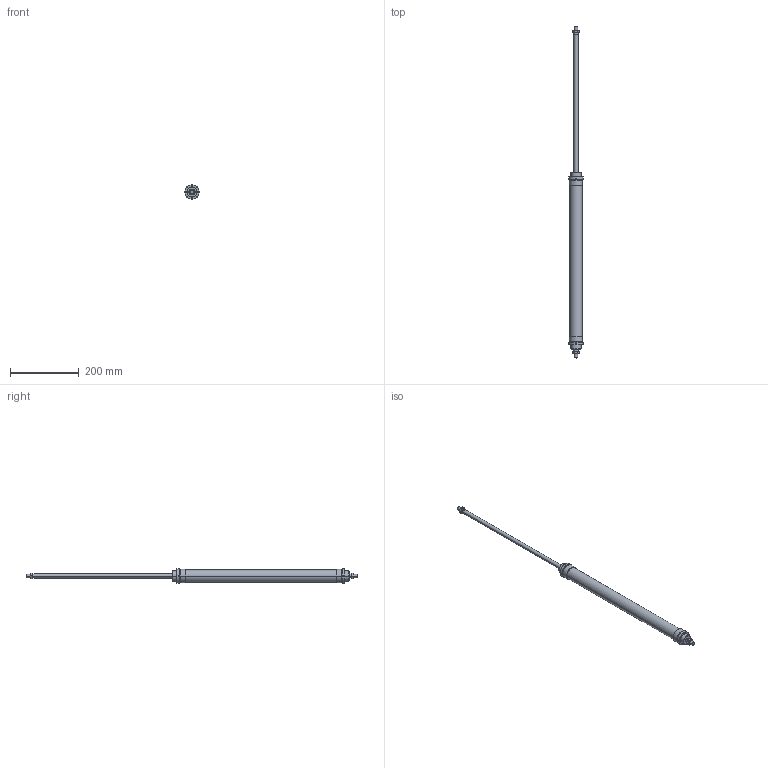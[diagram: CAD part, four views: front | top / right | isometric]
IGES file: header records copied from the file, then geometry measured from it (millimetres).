
Global section: file name: No Iges File Name specified; native system: AutoDesk Inventor R6.0; preprocessor: AutoDesk Inventor Iges Exporter R6.0; author: No Author specified; organization: No Organization specified; date: 20030403.072728; units: millimetre
Bounding box: 41.7 x 965 x 41.7 mm (x, y, z)
Volume: 576987.9 mm3; surface area: 124427.1 mm2
Topology: 6 solids, 6 shells, 182 faces, 424 edges, 264 vertices
Faces by surface type: plane 66, cone 52, bspline 30, cylinder 28, revolution 6
